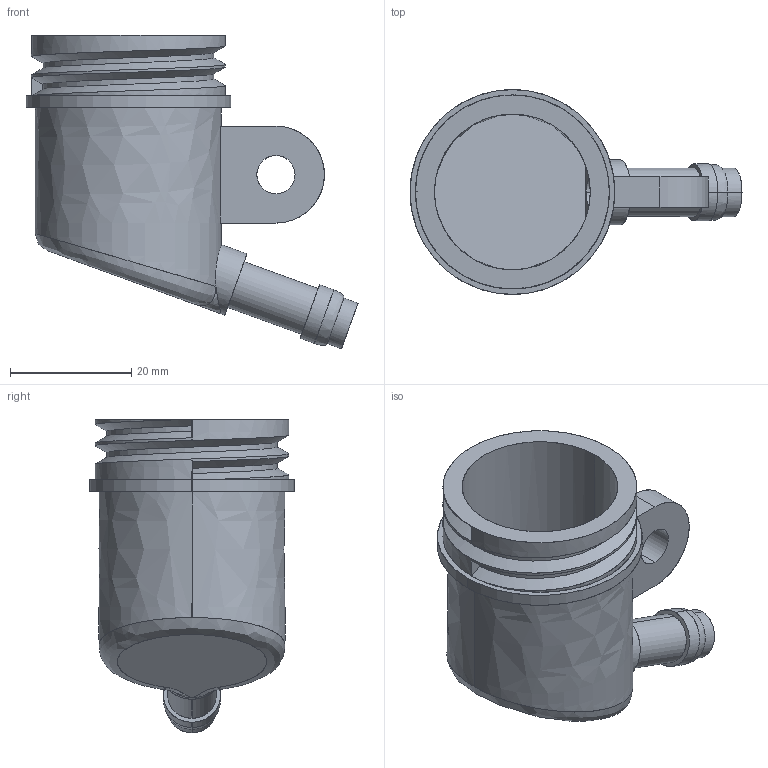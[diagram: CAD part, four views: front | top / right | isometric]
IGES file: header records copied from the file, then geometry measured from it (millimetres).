
Start section: SolidWorks IGES file using analytic representation for surfaces
Bounding box: 54.79 x 33.8 x 51.75 mm (x, y, z)
Surface area: 10808.2 mm2 (no closed solid volume)
Topology: 0 solids, 0 shells, 50 faces, 1186 edges, 1186 vertices
Faces by surface type: revolution 27, bspline 23
